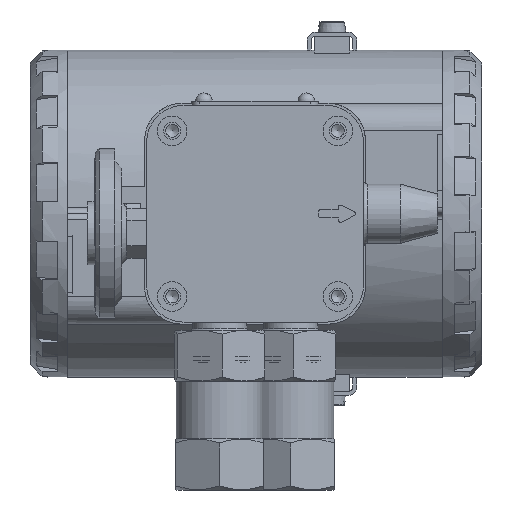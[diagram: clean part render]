
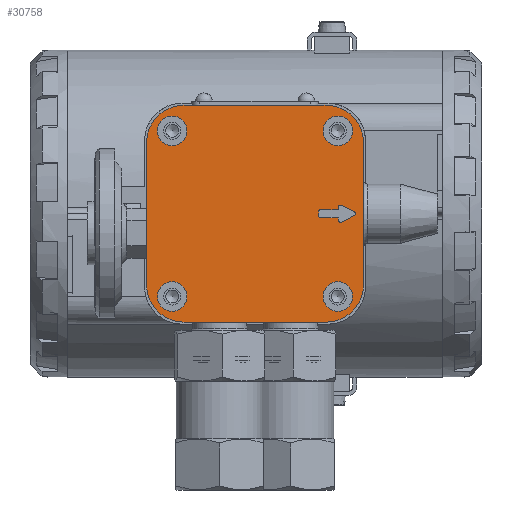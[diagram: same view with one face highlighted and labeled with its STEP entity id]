
A CAD part, left-side view. The second image highlights one B-rep face of the part: STEP entity #30758.
In plain terms, the highlighted planar face has unit normal (-1, 0, 0) as drawn and (0, 0, -1) by its records, which use the part's own axes.
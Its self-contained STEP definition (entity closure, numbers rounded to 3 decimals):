
#1807=FACE_BOUND('',#5694,.T.);
#1808=FACE_BOUND('',#5695,.T.);
#1809=FACE_BOUND('',#5696,.T.);
#1810=FACE_BOUND('',#5697,.T.);
#1811=FACE_BOUND('',#5698,.T.);
#2304=PLANE('',#34422);
#3723=FACE_OUTER_BOUND('',#5693,.T.);
#5693=EDGE_LOOP('',(#26038,#26039,#26040,#26041,#26042,#26043,#26044,#26045));
#5694=EDGE_LOOP('',(#26046,#26047,#26048,#26049,#26050,#26051,#26052,#26053,
#26054,#26055,#26056,#26057));
#5695=EDGE_LOOP('',(#26058));
#5696=EDGE_LOOP('',(#26059));
#5697=EDGE_LOOP('',(#26060));
#5698=EDGE_LOOP('',(#26061));
#7478=CIRCLE('',#34332,0.5);
#7480=CIRCLE('',#34336,0.5);
#7482=CIRCLE('',#34341,0.5);
#7484=CIRCLE('',#34345,0.5);
#7486=CIRCLE('',#34349,0.5);
#7487=CIRCLE('',#34353,3.75);
#7490=CIRCLE('',#34358,3.75);
#7493=CIRCLE('',#34363,3.75);
#7496=CIRCLE('',#34368,3.75);
#7520=CIRCLE('',#34409,9.5);
#7522=CIRCLE('',#34412,9.5);
#7524=CIRCLE('',#34416,9.5);
#7526=CIRCLE('',#34420,9.5);
#9213=LINE('',#54161,#11223);
#9217=LINE('',#54173,#11227);
#9221=LINE('',#54185,#11231);
#9224=LINE('',#54191,#11234);
#9228=LINE('',#54203,#11238);
#9232=LINE('',#54215,#11242);
#9236=LINE('',#54225,#11246);
#9250=LINE('',#54362,#11260);
#9259=LINE('',#54396,#11269);
#9263=LINE('',#54408,#11273);
#9266=LINE('',#54417,#11276);
#11223=VECTOR('',#40815,10.);
#11227=VECTOR('',#40827,10.);
#11231=VECTOR('',#40839,10.);
#11234=VECTOR('',#40844,10.);
#11238=VECTOR('',#40856,10.);
#11242=VECTOR('',#40868,10.);
#11246=VECTOR('',#40880,10.);
#11260=VECTOR('',#40990,10.);
#11269=VECTOR('',#41029,10.);
#11273=VECTOR('',#41041,10.);
#11276=VECTOR('',#41052,10.);
#14665=VERTEX_POINT('',#54158);
#14666=VERTEX_POINT('',#54160);
#14668=VERTEX_POINT('',#54166);
#14670=VERTEX_POINT('',#54172);
#14672=VERTEX_POINT('',#54178);
#14674=VERTEX_POINT('',#54184);
#14676=VERTEX_POINT('',#54190);
#14678=VERTEX_POINT('',#54196);
#14680=VERTEX_POINT('',#54202);
#14682=VERTEX_POINT('',#54208);
#14684=VERTEX_POINT('',#54214);
#14686=VERTEX_POINT('',#54220);
#14687=VERTEX_POINT('',#54228);
#14690=VERTEX_POINT('',#54237);
#14693=VERTEX_POINT('',#54246);
#14696=VERTEX_POINT('',#54255);
#14720=VERTEX_POINT('',#54359);
#14721=VERTEX_POINT('',#54361);
#14727=VERTEX_POINT('',#54382);
#14729=VERTEX_POINT('',#54388);
#14731=VERTEX_POINT('',#54394);
#14733=VERTEX_POINT('',#54400);
#14735=VERTEX_POINT('',#54406);
#14737=VERTEX_POINT('',#54412);
#18600=EDGE_CURVE('',#14666,#14665,#9213,.T.);
#18603=EDGE_CURVE('',#14668,#14666,#7478,.T.);
#18606=EDGE_CURVE('',#14670,#14668,#9217,.T.);
#18609=EDGE_CURVE('',#14672,#14670,#7480,.T.);
#18612=EDGE_CURVE('',#14674,#14672,#9221,.T.);
#18615=EDGE_CURVE('',#14676,#14674,#9224,.T.);
#18618=EDGE_CURVE('',#14678,#14676,#7482,.T.);
#18621=EDGE_CURVE('',#14680,#14678,#9228,.T.);
#18624=EDGE_CURVE('',#14682,#14680,#7484,.T.);
#18627=EDGE_CURVE('',#14684,#14682,#9232,.T.);
#18630=EDGE_CURVE('',#14686,#14684,#7486,.T.);
#18633=EDGE_CURVE('',#14665,#14686,#9236,.T.);
#18634=EDGE_CURVE('',#14687,#14687,#7487,.T.);
#18638=EDGE_CURVE('',#14690,#14690,#7490,.T.);
#18642=EDGE_CURVE('',#14693,#14693,#7493,.T.);
#18646=EDGE_CURVE('',#14696,#14696,#7496,.T.);
#18679=EDGE_CURVE('',#14720,#14721,#9250,.T.);
#18689=EDGE_CURVE('',#14721,#14727,#7520,.T.);
#18693=EDGE_CURVE('',#14729,#14720,#7522,.T.);
#18696=EDGE_CURVE('',#14731,#14729,#9259,.T.);
#18699=EDGE_CURVE('',#14733,#14731,#7524,.T.);
#18702=EDGE_CURVE('',#14735,#14733,#9263,.T.);
#18705=EDGE_CURVE('',#14737,#14735,#7526,.T.);
#18707=EDGE_CURVE('',#14727,#14737,#9266,.T.);
#26038=ORIENTED_EDGE('',*,*,#18707,.F.);
#26039=ORIENTED_EDGE('',*,*,#18689,.F.);
#26040=ORIENTED_EDGE('',*,*,#18679,.F.);
#26041=ORIENTED_EDGE('',*,*,#18693,.F.);
#26042=ORIENTED_EDGE('',*,*,#18696,.F.);
#26043=ORIENTED_EDGE('',*,*,#18699,.F.);
#26044=ORIENTED_EDGE('',*,*,#18702,.F.);
#26045=ORIENTED_EDGE('',*,*,#18705,.F.);
#26046=ORIENTED_EDGE('',*,*,#18600,.T.);
#26047=ORIENTED_EDGE('',*,*,#18633,.T.);
#26048=ORIENTED_EDGE('',*,*,#18630,.T.);
#26049=ORIENTED_EDGE('',*,*,#18627,.T.);
#26050=ORIENTED_EDGE('',*,*,#18624,.T.);
#26051=ORIENTED_EDGE('',*,*,#18621,.T.);
#26052=ORIENTED_EDGE('',*,*,#18618,.T.);
#26053=ORIENTED_EDGE('',*,*,#18615,.T.);
#26054=ORIENTED_EDGE('',*,*,#18612,.T.);
#26055=ORIENTED_EDGE('',*,*,#18609,.T.);
#26056=ORIENTED_EDGE('',*,*,#18606,.T.);
#26057=ORIENTED_EDGE('',*,*,#18603,.T.);
#26058=ORIENTED_EDGE('',*,*,#18634,.T.);
#26059=ORIENTED_EDGE('',*,*,#18638,.T.);
#26060=ORIENTED_EDGE('',*,*,#18642,.T.);
#26061=ORIENTED_EDGE('',*,*,#18646,.T.);
#30758=ADVANCED_FACE('',(#3723,#1807,#1808,#1809,#1810,#1811),#2304,.F.);
#34332=AXIS2_PLACEMENT_3D('',#54167,#40821,#40822);
#34336=AXIS2_PLACEMENT_3D('',#54179,#40833,#40834);
#34341=AXIS2_PLACEMENT_3D('',#54197,#40850,#40851);
#34345=AXIS2_PLACEMENT_3D('',#54209,#40862,#40863);
#34349=AXIS2_PLACEMENT_3D('',#54221,#40874,#40875);
#34353=AXIS2_PLACEMENT_3D('',#54229,#40885,#40886);
#34358=AXIS2_PLACEMENT_3D('',#54238,#40896,#40897);
#34363=AXIS2_PLACEMENT_3D('',#54247,#40907,#40908);
#34368=AXIS2_PLACEMENT_3D('',#54256,#40918,#40919);
#34409=AXIS2_PLACEMENT_3D('',#54383,#41015,#41016);
#34412=AXIS2_PLACEMENT_3D('',#54390,#41023,#41024);
#34416=AXIS2_PLACEMENT_3D('',#54402,#41035,#41036);
#34420=AXIS2_PLACEMENT_3D('',#54414,#41047,#41048);
#34422=AXIS2_PLACEMENT_3D('',#54418,#41053,#41054);
#40815=DIRECTION('',(1.,0.,0.));
#40821=DIRECTION('center_axis',(0.,0.,1.));
#40822=DIRECTION('ref_axis',(0.,-1.,0.));
#40827=DIRECTION('',(0.,-1.,0.));
#40833=DIRECTION('center_axis',(0.,0.,1.));
#40834=DIRECTION('ref_axis',(-1.,0.,0.));
#40839=DIRECTION('',(-1.,0.,0.));
#40844=DIRECTION('',(0.,-1.,0.));
#40850=DIRECTION('center_axis',(0.,0.,1.));
#40851=DIRECTION('ref_axis',(-1.,0.,0.));
#40856=DIRECTION('',(-0.894,0.447,0.));
#40862=DIRECTION('center_axis',(0.,0.,1.));
#40863=DIRECTION('ref_axis',(0.447,0.894,0.));
#40868=DIRECTION('',(0.894,0.447,0.));
#40874=DIRECTION('center_axis',(0.,0.,1.));
#40875=DIRECTION('ref_axis',(0.447,-0.894,0.));
#40880=DIRECTION('',(0.,-1.,0.));
#40885=DIRECTION('center_axis',(0.,0.,1.));
#40886=DIRECTION('ref_axis',(1.,0.,0.));
#40896=DIRECTION('center_axis',(0.,0.,1.));
#40897=DIRECTION('ref_axis',(1.,0.,0.));
#40907=DIRECTION('center_axis',(0.,0.,1.));
#40908=DIRECTION('ref_axis',(1.,0.,0.));
#40918=DIRECTION('center_axis',(0.,0.,1.));
#40919=DIRECTION('ref_axis',(1.,0.,0.));
#40990=DIRECTION('',(0.,1.,0.));
#41015=DIRECTION('center_axis',(0.,0.,1.));
#41016=DIRECTION('ref_axis',(1.,0.,0.));
#41023=DIRECTION('center_axis',(0.,0.,1.));
#41024=DIRECTION('ref_axis',(0.,-1.,0.));
#41029=DIRECTION('',(1.,0.,0.));
#41035=DIRECTION('center_axis',(0.,0.,1.));
#41036=DIRECTION('ref_axis',(-1.,0.,0.));
#41041=DIRECTION('',(0.,-1.,0.));
#41047=DIRECTION('center_axis',(0.,0.,1.));
#41048=DIRECTION('ref_axis',(0.,1.,0.));
#41052=DIRECTION('',(-1.,0.,0.));
#41053=DIRECTION('center_axis',(0.,0.,1.));
#41054=DIRECTION('ref_axis',(1.,0.,0.));
#54158=CARTESIAN_POINT('',(21.109,-1.,0.));
#54160=CARTESIAN_POINT('',(16.609,-1.,0.));
#54161=CARTESIAN_POINT('',(10.554,-1.,0.));
#54166=CARTESIAN_POINT('',(16.109,-0.5,0.));
#54167=CARTESIAN_POINT('Origin',(16.609,-0.5,0.));
#54172=CARTESIAN_POINT('',(16.109,0.5,0.));
#54173=CARTESIAN_POINT('',(16.109,-0.25,0.));
#54178=CARTESIAN_POINT('',(16.609,1.,0.));
#54179=CARTESIAN_POINT('Origin',(16.609,0.5,0.));
#54184=CARTESIAN_POINT('',(21.109,1.,0.));
#54185=CARTESIAN_POINT('',(8.304,1.,0.));
#54190=CARTESIAN_POINT('',(21.109,1.691,0.));
#54191=CARTESIAN_POINT('',(21.109,0.5,0.));
#54196=CARTESIAN_POINT('',(21.833,2.138,0.));
#54197=CARTESIAN_POINT('Origin',(21.609,1.691,0.));
#54202=CARTESIAN_POINT('',(25.214,0.447,0.));
#54203=CARTESIAN_POINT('',(13.527,6.291,0.));
#54208=CARTESIAN_POINT('',(25.214,-0.447,0.));
#54209=CARTESIAN_POINT('Origin',(24.991,0.,0.));
#54214=CARTESIAN_POINT('',(21.833,-2.138,0.));
#54215=CARTESIAN_POINT('',(15.218,-5.445,0.));
#54220=CARTESIAN_POINT('',(21.109,-1.691,0.));
#54221=CARTESIAN_POINT('Origin',(21.609,-1.691,0.));
#54225=CARTESIAN_POINT('',(21.109,-0.845,0.));
#54228=CARTESIAN_POINT('',(-24.75,-21.,0.));
#54229=CARTESIAN_POINT('Origin',(-21.,-21.,0.));
#54237=CARTESIAN_POINT('',(-24.75,21.,0.));
#54238=CARTESIAN_POINT('Origin',(-21.,21.,0.));
#54246=CARTESIAN_POINT('',(17.25,21.,0.));
#54247=CARTESIAN_POINT('Origin',(21.,21.,0.));
#54255=CARTESIAN_POINT('',(17.25,-21.,0.));
#54256=CARTESIAN_POINT('Origin',(21.,-21.,0.));
#54359=CARTESIAN_POINT('',(27.5,-18.,0.));
#54361=CARTESIAN_POINT('',(27.5,18.,0.));
#54362=CARTESIAN_POINT('',(27.5,-18.,0.));
#54382=CARTESIAN_POINT('',(18.,27.5,0.));
#54383=CARTESIAN_POINT('Origin',(18.,18.,0.));
#54388=CARTESIAN_POINT('',(18.,-27.5,0.));
#54390=CARTESIAN_POINT('Origin',(18.,-18.,0.));
#54394=CARTESIAN_POINT('',(-18.,-27.5,0.));
#54396=CARTESIAN_POINT('',(-18.,-27.5,0.));
#54400=CARTESIAN_POINT('',(-27.5,-18.,0.));
#54402=CARTESIAN_POINT('Origin',(-18.,-18.,0.));
#54406=CARTESIAN_POINT('',(-27.5,18.,0.));
#54408=CARTESIAN_POINT('',(-27.5,18.,0.));
#54412=CARTESIAN_POINT('',(-18.,27.5,0.));
#54414=CARTESIAN_POINT('Origin',(-18.,18.,0.));
#54417=CARTESIAN_POINT('',(18.,27.5,0.));
#54418=CARTESIAN_POINT('Origin',(0.,0.,0.));
